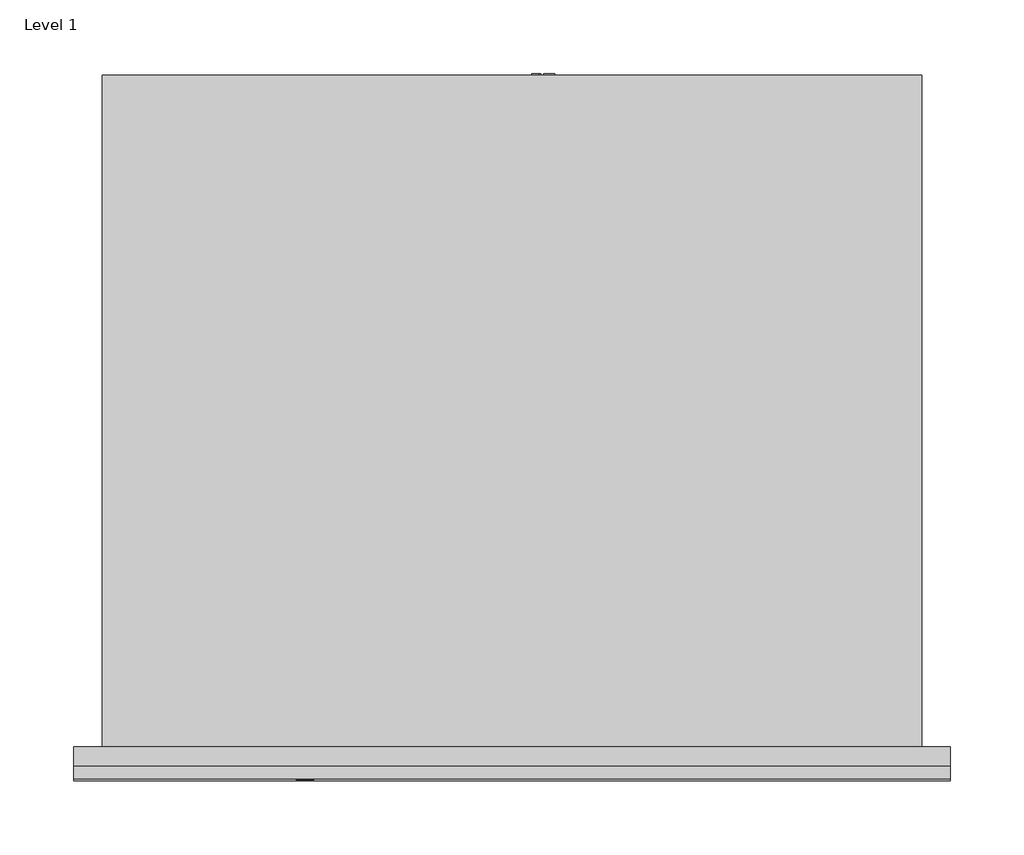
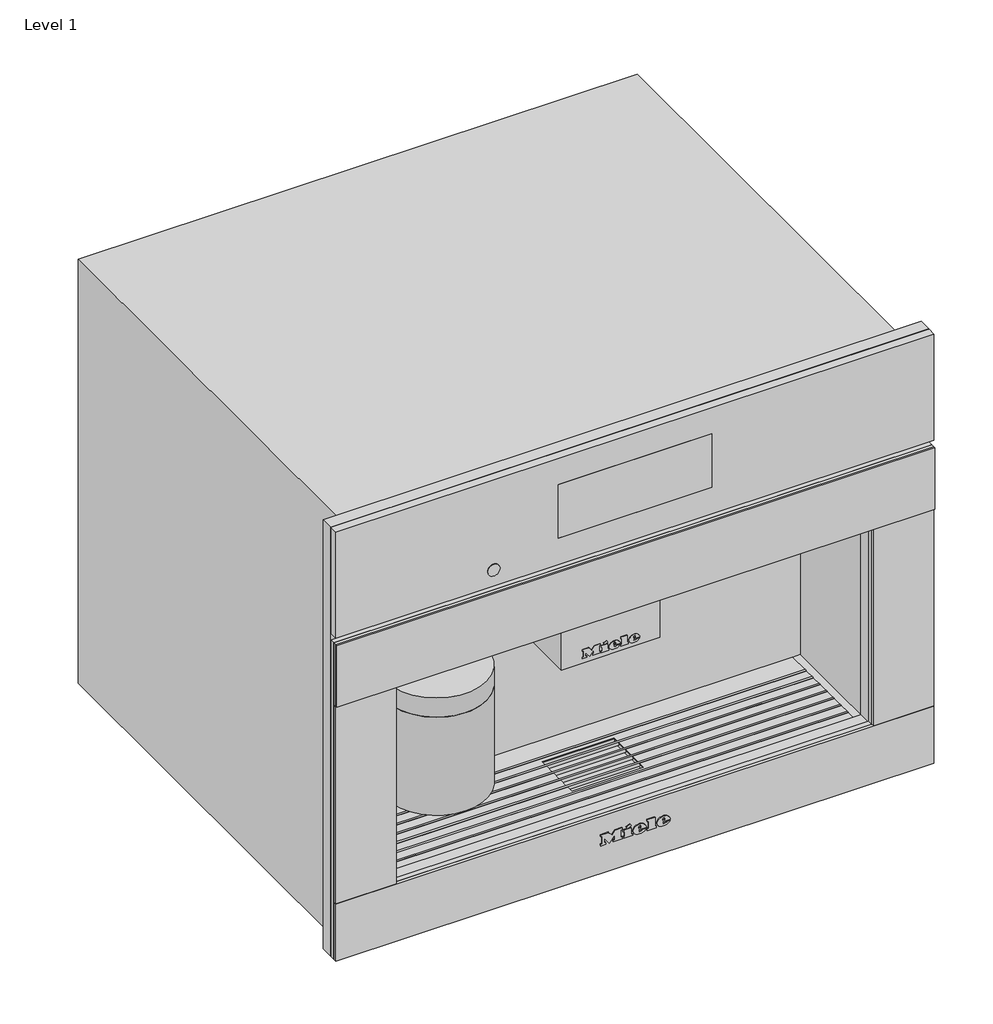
# One storey: 1 proxy.
"""IFC4 building model written with IfcOpenShell, lengths in millimetres."""

from ifc_helpers import new_model, si_unit, origin, place, context, project, spatial, transform, mapped, element, save
from components import specialty_equipment_d6a6ee0f

model = new_model("IFC4")

# Units and contexts
model_context = context("Model", 3, world=origin())
ifc_project = project(units=[si_unit("LENGTHUNIT", "METRE", prefix="MILLI")], contexts=[model_context])

# Site, building, storey
site = spatial("IfcSite", under=ifc_project)
building = spatial("IfcBuilding", under=site)
storey = spatial("IfcBuildingStorey", under=building, Name="Level 1", Elevation=0.0)

# Proxy
placement = place(None, origin())
specialty_equipment_shape = specialty_equipment_d6a6ee0f(model_context)
element("IfcBuildingElementProxy", 1, Name="11754270_USA_CVA7840_EDST-CLST : 29784040_USA_11754270_CVA7840_EDST-CLST", ObjectType="11754270_USA_CVA7840_EDST-CLST : 29784040_USA_11754270_CVA7840_EDST-CLST", at=placement, inside=storey, context=model_context, shape_type="MappedRepresentation", body=[
    mapped(specialty_equipment_shape, transform((0.0, 0.0, 0.0), x_axis=(1.0, 0.0, 0.0), y_axis=(0.0, 1.0, 0.0), z_axis=(0.0, 0.0, 1.0))),
])

save(model, "model.ifc")
